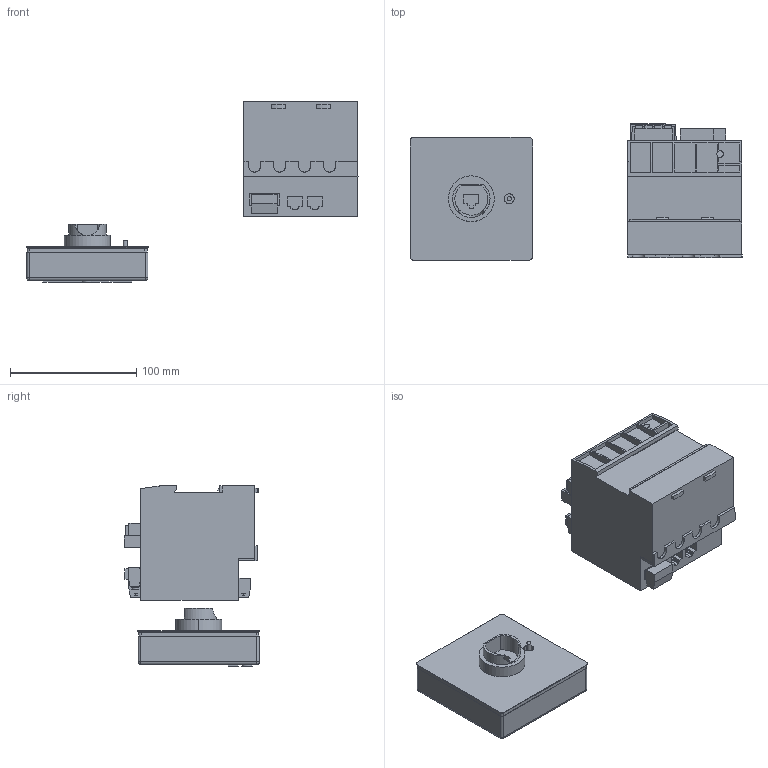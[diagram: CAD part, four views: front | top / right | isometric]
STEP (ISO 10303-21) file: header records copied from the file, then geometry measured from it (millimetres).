
FILE_DESCRIPTION((''),'2;1');
FILE_NAME('SB110927_3D-SIMPLIFIED_ASM','2014-02-20T',('FBon'),(''),'PRO/ENGINEER BY PARAMETRIC TECHNOLOGY CORPORATION, 2009280','PRO/ENGINEER BY PARAMETRIC TECHNOLOGY CORPORATION, 2009280','');
FILE_SCHEMA(('CONFIG_CONTROL_DESIGN'));
Length unit declared in the file: millimetre
Products named in the file (8): CORPUS; CONNECTEUR; SB110927_SIMPLIFIEDD_ASM; CORPUS_3; SB110928_SIMPLIFIED_ASM_1_ASM; SB110928_3D-SIMPLIFIED_ASM_3_ASM; SB110928_3D-SIMPLIFIED_ASM; SB110927_3D-SIMPLIFIED_ASM
Assembly tree (7 placements, depth 5):
  SB110927_3D-SIMPLIFIED_ASM
    SB110927_SIMPLIFIEDD_ASM
      CORPUS
      CONNECTEUR
    SB110928_3D-SIMPLIFIED_ASM
      SB110928_3D-SIMPLIFIED_ASM_3_ASM
        SB110928_SIMPLIFIED_ASM_1_ASM
          CORPUS_3
Bounding box: 262.88 x 107.67 x 143.05 mm (x, y, z)
Volume: 936501.6 mm3; surface area: 101766.7 mm2
Topology: 7 solids, 7 shells, 558 faces, 1358 edges, 894 vertices
Faces by surface type: plane 429, cylinder 121, sphere 4, cone 4
Entity records: 16698 total; most frequent: CARTESIAN_POINT 3162, DIRECTION 2744, ORIENTED_EDGE 2708, EDGE_CURVE 1354, VECTOR 1096, LINE 1096, VERTEX_POINT 894, AXIS2_PLACEMENT_3D 824
